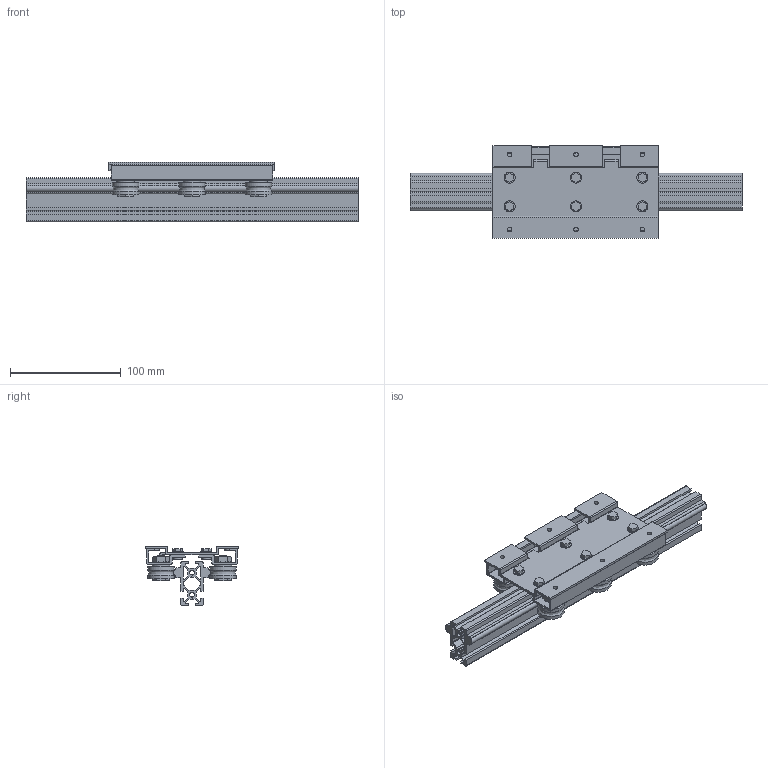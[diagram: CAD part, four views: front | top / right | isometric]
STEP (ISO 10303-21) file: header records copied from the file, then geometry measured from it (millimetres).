
FILE_DESCRIPTION((''),'2;1');
FILE_NAME('C:\Documents and Settings\土屋\My Documents\土屋移動用フォルダ\製品 (図面)\LSダウンロード用図面\新型キャリッジ\縦型LS-L\step形式\LS2040BL.stp','2017-08-02T09:34:42',('y'),(''),'Autodesk Inventor 11','Autodesk Inventor 11','');
FILE_SCHEMA(('AUTOMOTIVE_DESIGN { 1 0 10303 214 1 1 1 1 }'));
Length unit declared in the file: millimetre
Products named in the file (3): LS2040BL; LS2040BLレール; LS2040BLキャリッジ
Assembly tree (2 placements, depth 2):
  LS2040BL
    LS2040BLレール
    LS2040BLキャリッジ
Bounding box: 300 x 84 x 54 mm (x, y, z)
Volume: 236502.4 mm3; surface area: 174262.7 mm2
Topology: 8 solids, 8 shells, 551 faces, 1398 edges, 900 vertices
Faces by surface type: plane 341, cylinder 102, cone 90, bspline 18
Full cylindrical faces by diameter (mm): 4.2 x2, 8 x12, 10 x6, 16 x6, 24 x12
Entity records: 16512 total; most frequent: CARTESIAN_POINT 3716, ORIENTED_EDGE 2612, DIRECTION 2556, EDGE_CURVE 1306, VERTEX_POINT 882, AXIS2_PLACEMENT_3D 856, VECTOR 844, LINE 844
